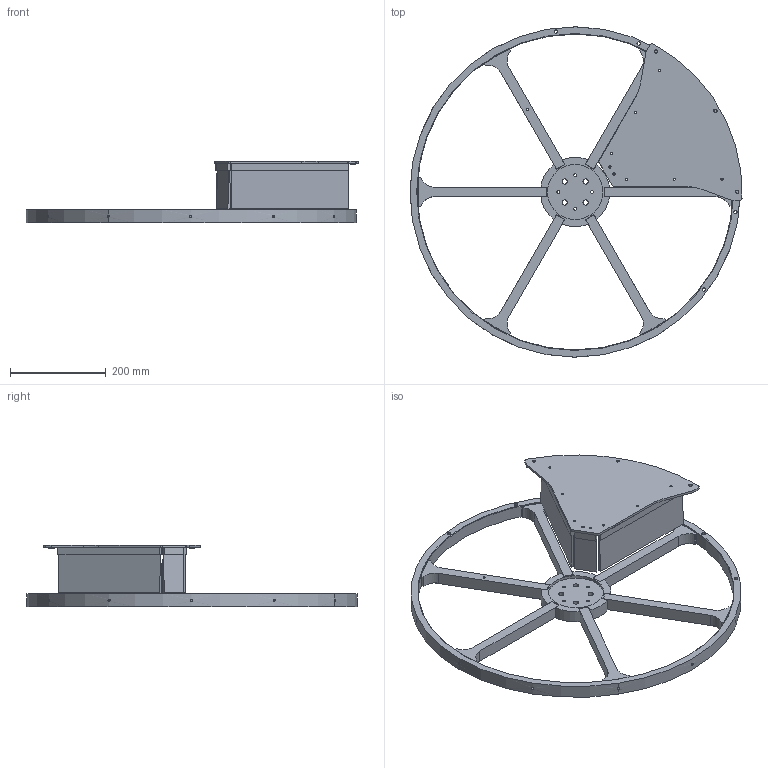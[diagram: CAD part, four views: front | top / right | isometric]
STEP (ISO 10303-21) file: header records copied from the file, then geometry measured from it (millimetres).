
FILE_DESCRIPTION (( 'STEP AP214' ), '1' );
FILE_NAME ('GM000539.STEP', '2021-09-17T08:28:40', ( '' ), ( '' ), 'SwSTEP 2.0', 'SolidWorks 2020', '' );
FILE_SCHEMA (( 'AUTOMOTIVE_DESIGN' ));
Length unit declared in the file: millimetre
Products named in the file (9): CM000064; PD001760; PD001939; PD002136; SM000068; PD001100; GM000539; PD002130; SM000071
Assembly tree (18 placements, depth 2):
  GM000539
    CM000064  x6
    PD002130
    PD002136
    PD001100
    SM000071
    PD001760  x5
    PD001939
    SM000068  x2
Bounding box: 693.63 x 690 x 129.52 mm (x, y, z)
Volume: 2626487 mm3; surface area: 663227.4 mm2
Topology: 18 solids, 18 shells, 519 faces, 1427 edges, 956 vertices
Faces by surface type: plane 285, cylinder 232, cone 2
Entity records: 12153 total; most frequent: CARTESIAN_POINT 2365, DIRECTION 1903, ORIENTED_EDGE 1858, EDGE_CURVE 929, AXIS2_PLACEMENT_3D 674, VERTEX_POINT 624, LINE 555, VECTOR 555
